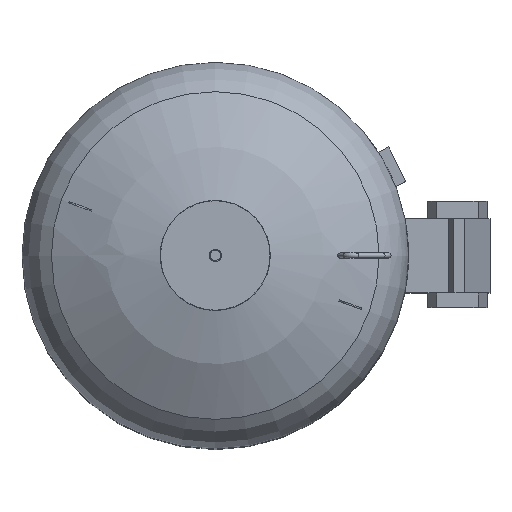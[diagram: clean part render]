
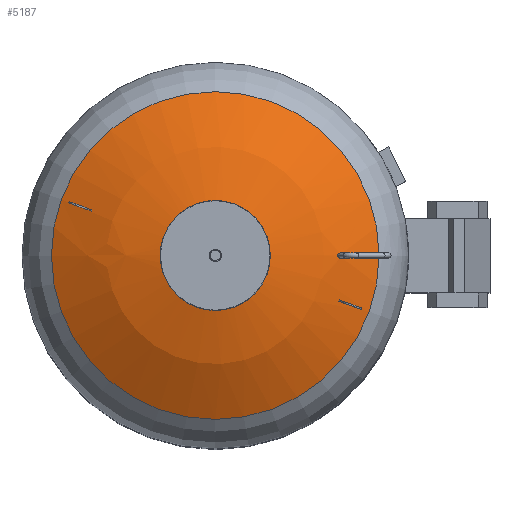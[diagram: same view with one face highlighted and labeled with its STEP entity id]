
A CAD part, top view. The second image highlights one B-rep face of the part: STEP entity #5187.
In plain terms, the highlighted spherical face has radius 967.7 mm.
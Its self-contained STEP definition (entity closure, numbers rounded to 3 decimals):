
#19=SPHERICAL_SURFACE('',#5566,967.7);
#142=FACE_BOUND('',#608,.T.);
#241=B_SPLINE_CURVE_WITH_KNOTS('',3,(#7773,#7774,#7775,#7776,#7777,#7778,
#7779,#7780,#7781,#7782,#7783,#7784,#7785,#7786,#7787,#7788,#7789,#7790),
 .UNSPECIFIED.,.F.,.F.,(4,2,2,2,2,2,2,2,4),(0.,0.302,0.605,
0.906,1.207,1.508,1.81,2.112,
2.414),.UNSPECIFIED.);
#242=B_SPLINE_CURVE_WITH_KNOTS('',3,(#7791,#7792,#7793,#7794,#7795,#7796,
#7797,#7798,#7799,#7800,#7801,#7802,#7803,#7804,#7805,#7806,#7807,#7808),
 .UNSPECIFIED.,.F.,.F.,(4,2,2,2,2,2,2,2,4),(2.414,2.717,
3.019,3.32,3.622,3.923,4.224,
4.526,4.829),.UNSPECIFIED.);
#314=FACE_OUTER_BOUND('',#607,.T.);
#607=EDGE_LOOP('',(#3604,#3605,#3606,#3607,#3608,#3609));
#608=EDGE_LOOP('',(#3610,#3611));
#1733=CIRCLE('',#5564,153.);
#1734=CIRCLE('',#5565,153.);
#1735=CIRCLE('',#5567,967.7);
#1736=CIRCLE('',#5568,508.692);
#1737=CIRCLE('',#5569,508.692);
#1989=VERTEX_POINT('',#7770);
#1990=VERTEX_POINT('',#7772);
#2107=VERTEX_POINT('',#8183);
#2108=VERTEX_POINT('',#8184);
#2109=VERTEX_POINT('',#8189);
#2110=VERTEX_POINT('',#8191);
#2518=EDGE_CURVE('',#1990,#1989,#241,.T.);
#2519=EDGE_CURVE('',#1989,#1990,#242,.T.);
#2687=EDGE_CURVE('',#2107,#2108,#1733,.T.);
#2688=EDGE_CURVE('',#2108,#2107,#1734,.T.);
#2690=EDGE_CURVE('',#2107,#2109,#1735,.T.);
#2691=EDGE_CURVE('',#2110,#2109,#1736,.T.);
#2692=EDGE_CURVE('',#2109,#2110,#1737,.T.);
#3604=ORIENTED_EDGE('',*,*,#2687,.T.);
#3605=ORIENTED_EDGE('',*,*,#2688,.T.);
#3606=ORIENTED_EDGE('',*,*,#2690,.T.);
#3607=ORIENTED_EDGE('',*,*,#2691,.F.);
#3608=ORIENTED_EDGE('',*,*,#2692,.F.);
#3609=ORIENTED_EDGE('',*,*,#2690,.F.);
#3610=ORIENTED_EDGE('',*,*,#2518,.T.);
#3611=ORIENTED_EDGE('',*,*,#2519,.T.);
#5187=ADVANCED_FACE('',(#314,#142),#19,.T.);
#5564=AXIS2_PLACEMENT_3D('',#8185,#6392,#6393);
#5565=AXIS2_PLACEMENT_3D('',#8186,#6394,#6395);
#5566=AXIS2_PLACEMENT_3D('',#8188,#6397,#6398);
#5567=AXIS2_PLACEMENT_3D('',#8190,#6399,#6400);
#5568=AXIS2_PLACEMENT_3D('',#8192,#6401,#6402);
#5569=AXIS2_PLACEMENT_3D('',#8193,#6403,#6404);
#6392=DIRECTION('center_axis',(0.,0.,-1.));
#6393=DIRECTION('ref_axis',(1.,0.,0.));
#6394=DIRECTION('center_axis',(0.,0.,-1.));
#6395=DIRECTION('ref_axis',(1.,0.,0.));
#6397=DIRECTION('center_axis',(0.,0.,1.));
#6398=DIRECTION('ref_axis',(1.,0.,0.));
#6399=DIRECTION('center_axis',(0.,-1.,0.));
#6400=DIRECTION('ref_axis',(-1.,0.,0.));
#6401=DIRECTION('center_axis',(0.,0.,-1.));
#6402=DIRECTION('ref_axis',(1.,0.,0.));
#6403=DIRECTION('center_axis',(0.,0.,-1.));
#6404=DIRECTION('ref_axis',(1.,0.,0.));
#7770=CARTESIAN_POINT('',(387.431,-8.,2115.403));
#7772=CARTESIAN_POINT('',(387.431,8.,2115.403));
#7773=CARTESIAN_POINT('Ctrl Pts',(387.431,8.,2115.403));
#7774=CARTESIAN_POINT('Ctrl Pts',(388.355,8.,2115.));
#7775=CARTESIAN_POINT('Ctrl Pts',(389.34,7.799,2114.569));
#7776=CARTESIAN_POINT('Ctrl Pts',(391.152,6.982,2113.777));
#7777=CARTESIAN_POINT('Ctrl Pts',(391.98,6.365,2113.416));
#7778=CARTESIAN_POINT('Ctrl Pts',(393.284,4.944,2112.846));
#7779=CARTESIAN_POINT('Ctrl Pts',(393.85,4.045,2112.599));
#7780=CARTESIAN_POINT('Ctrl Pts',(394.599,2.075,2112.271));
#7781=CARTESIAN_POINT('Ctrl Pts',(394.784,1.004,2112.19));
#7782=CARTESIAN_POINT('Ctrl Pts',(394.784,-1.004,2112.19));
#7783=CARTESIAN_POINT('Ctrl Pts',(394.599,-2.075,2112.271));
#7784=CARTESIAN_POINT('Ctrl Pts',(393.85,-4.045,2112.599));
#7785=CARTESIAN_POINT('Ctrl Pts',(393.284,-4.944,2112.846));
#7786=CARTESIAN_POINT('Ctrl Pts',(391.98,-6.365,2113.416));
#7787=CARTESIAN_POINT('Ctrl Pts',(391.152,-6.982,2113.777));
#7788=CARTESIAN_POINT('Ctrl Pts',(389.34,-7.799,2114.569));
#7789=CARTESIAN_POINT('Ctrl Pts',(388.355,-8.,2115.));
#7790=CARTESIAN_POINT('Ctrl Pts',(387.431,-8.,2115.403));
#7791=CARTESIAN_POINT('Ctrl Pts',(387.431,-8.,2115.403));
#7792=CARTESIAN_POINT('Ctrl Pts',(386.508,-8.,2115.807));
#7793=CARTESIAN_POINT('Ctrl Pts',(385.523,-7.799,2116.237));
#7794=CARTESIAN_POINT('Ctrl Pts',(383.71,-6.982,2117.029));
#7795=CARTESIAN_POINT('Ctrl Pts',(382.883,-6.365,2117.39));
#7796=CARTESIAN_POINT('Ctrl Pts',(381.578,-4.944,2117.96));
#7797=CARTESIAN_POINT('Ctrl Pts',(381.013,-4.045,2118.207));
#7798=CARTESIAN_POINT('Ctrl Pts',(380.263,-2.075,2118.535));
#7799=CARTESIAN_POINT('Ctrl Pts',(380.079,-1.004,2118.615));
#7800=CARTESIAN_POINT('Ctrl Pts',(380.079,1.004,2118.615));
#7801=CARTESIAN_POINT('Ctrl Pts',(380.263,2.075,2118.535));
#7802=CARTESIAN_POINT('Ctrl Pts',(381.013,4.045,2118.207));
#7803=CARTESIAN_POINT('Ctrl Pts',(381.578,4.944,2117.96));
#7804=CARTESIAN_POINT('Ctrl Pts',(382.883,6.365,2117.39));
#7805=CARTESIAN_POINT('Ctrl Pts',(383.71,6.982,2117.029));
#7806=CARTESIAN_POINT('Ctrl Pts',(385.523,7.799,2116.237));
#7807=CARTESIAN_POINT('Ctrl Pts',(386.508,8.,2115.807));
#7808=CARTESIAN_POINT('Ctrl Pts',(387.431,8.,2115.403));
#8183=CARTESIAN_POINT('',(-153.,0.,2184.209));
#8184=CARTESIAN_POINT('',(153.,0.,2184.209));
#8185=CARTESIAN_POINT('Origin',(0.,0.,2184.209));
#8186=CARTESIAN_POINT('Origin',(0.,0.,2184.209));
#8188=CARTESIAN_POINT('Origin',(0.,0.,1228.681));
#8189=CARTESIAN_POINT('',(-508.692,0.,2051.892));
#8190=CARTESIAN_POINT('Origin',(0.,0.,1228.681));
#8191=CARTESIAN_POINT('',(508.692,0.,2051.892));
#8192=CARTESIAN_POINT('Origin',(0.,0.,2051.892));
#8193=CARTESIAN_POINT('Origin',(0.,0.,2051.892));
